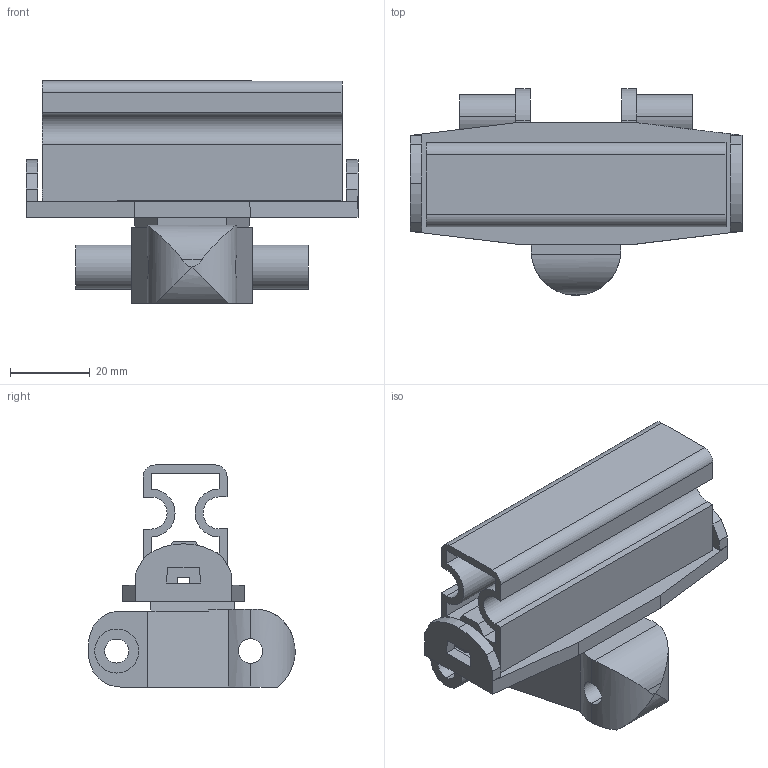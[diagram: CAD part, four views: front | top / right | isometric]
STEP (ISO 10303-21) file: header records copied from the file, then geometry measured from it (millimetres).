
FILE_DESCRIPTION (( 'STEP AP214' ), '1' );
FILE_NAME ('FMWT 5DA.step', '2017-04-04T13:35:28', ( '' ), ( '' ), 'SwSTEP 2.0', 'SolidWorks 2015', '' );
FILE_SCHEMA (( 'AUTOMOTIVE_DESIGN' ));
Length unit declared in the file: millimetre
Products named in the file (1): FMWT 5DA
Bounding box: 83 x 51.65 x 55.5 mm (x, y, z)
Volume: 52013.4 mm3; surface area: 27040.5 mm2
Topology: 1 solids, 1 shells, 109 faces, 308 edges, 203 vertices
Faces by surface type: plane 81, cylinder 28
Entity records: 4048 total; most frequent: CARTESIAN_POINT 807, ORIENTED_EDGE 616, DIRECTION 566, EDGE_CURVE 308, LINE 250, VECTOR 250, VERTEX_POINT 203, AXIS2_PLACEMENT_3D 158
